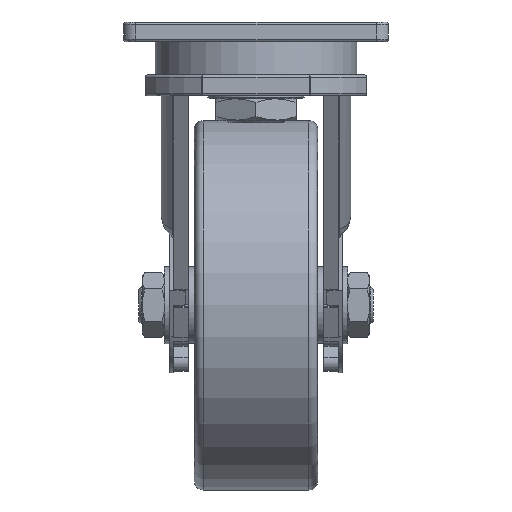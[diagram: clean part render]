
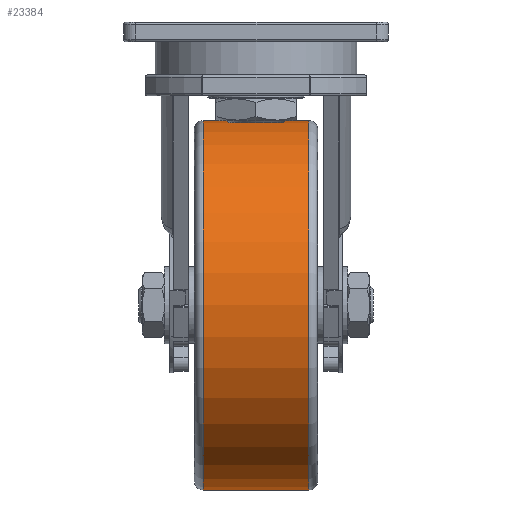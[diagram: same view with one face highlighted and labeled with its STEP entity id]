
A CAD part, front view. The second image highlights one B-rep face of the part: STEP entity #23384.
In plain terms, the highlighted cylindrical face has radius 150.001 mm (diameter 300.001 mm), a full revolution.
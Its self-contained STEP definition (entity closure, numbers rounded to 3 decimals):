
#23357=CARTESIAN_POINT('',(-185.388,11.433,-472.719));
#23358=DIRECTION('',(-1.0,0.0,0.0));
#23359=DIRECTION('',(0.0,0.0,1.0));
#23360=AXIS2_PLACEMENT_3D('',#23357,#23358,#23359);
#23361=CYLINDRICAL_SURFACE('',#23360,150.001);
#23362=CARTESIAN_POINT('',(-142.388,161.433,-472.719));
#23363=VERTEX_POINT('',#23362);
#23364=CARTESIAN_POINT('',(-142.388,11.433,-472.719));
#23365=DIRECTION('',(-1.0,0.0,0.0));
#23366=DIRECTION('',(0.0,0.0,1.0));
#23367=AXIS2_PLACEMENT_3D('',#23364,#23365,#23366);
#23368=CIRCLE('',#23367,150.001);
#23369=EDGE_CURVE('',#23363,#23363,#23368,.T.);
#23370=ORIENTED_EDGE('',*,*,#23369,.T.);
#23371=EDGE_LOOP('',(#23370));
#23372=FACE_OUTER_BOUND('',#23371,.T.);
#23373=CARTESIAN_POINT('',(-228.388,161.433,-472.719));
#23374=VERTEX_POINT('',#23373);
#23375=CARTESIAN_POINT('',(-228.388,11.433,-472.719));
#23376=DIRECTION('',(-1.0,0.0,0.0));
#23377=DIRECTION('',(0.0,0.0,1.0));
#23378=AXIS2_PLACEMENT_3D('',#23375,#23376,#23377);
#23379=CIRCLE('',#23378,150.001);
#23380=EDGE_CURVE('',#23374,#23374,#23379,.T.);
#23381=ORIENTED_EDGE('',*,*,#23380,.F.);
#23382=EDGE_LOOP('',(#23381));
#23383=FACE_BOUND('',#23382,.T.);
#23384=ADVANCED_FACE('',(#23372,#23383),#23361,.T.);
